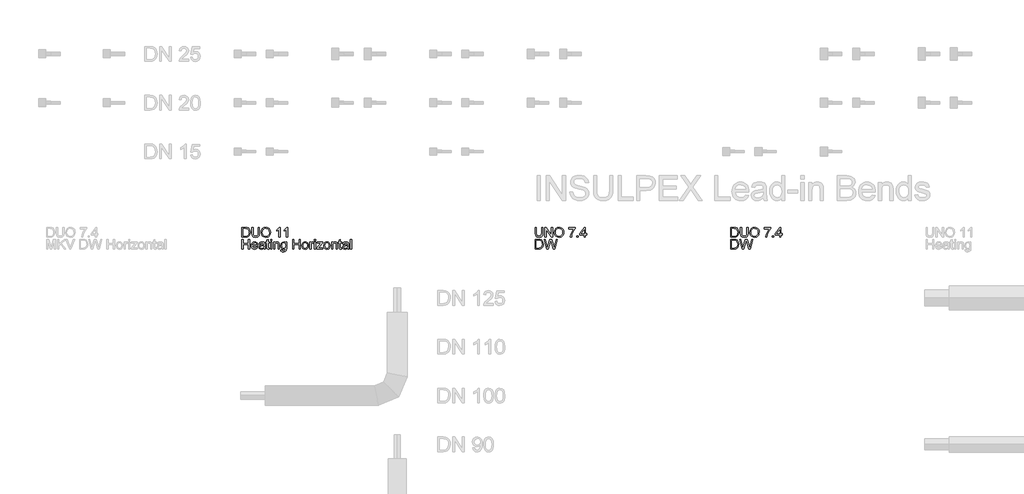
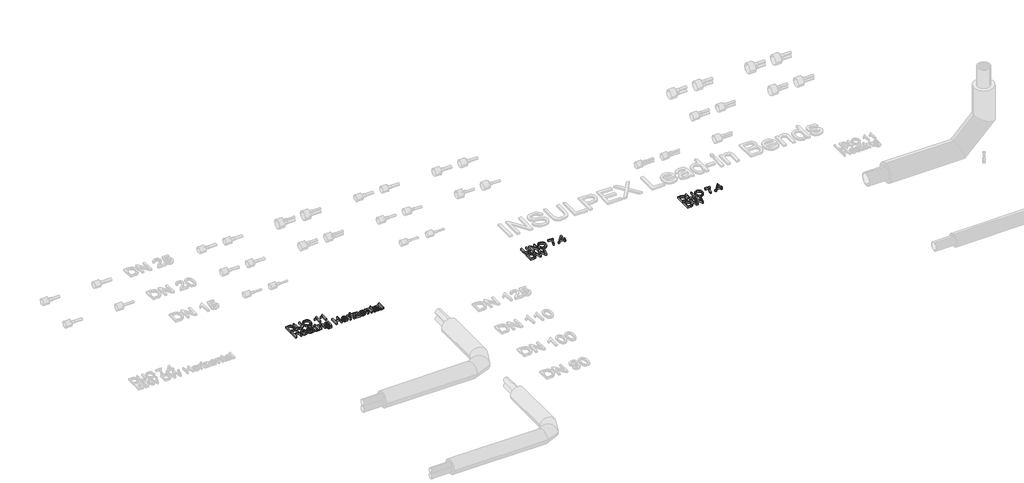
# One storey, part 20 of 44: 3 proxies.
"""IFC4 building model written with IfcOpenShell, lengths in millimetres."""

import ifcopenshell
import ifcopenshell.guid

model = None  # the IFC model being written
_history = None  # IfcOwnerHistory: only IFC2X3 demands one
_inside = {}  # id of a spatial element -> (the spatial element, [elements in it])
_under = {}  # id of a project, library or spatial element -> (it, [spatial elements below it])
_declared = {}  # id of a project -> (the project, [libraries it declares])
_typed = {}  # id of a type object -> (the type object, [elements of that type])
_made_of = {}  # id of a material, layer set ... -> (it, [elements and type objects made of it])


def new_model(schema):
    """Start an empty IFC model of exactly this schema.

    Asked for "IFC4X3", IfcOpenShell would pick the latest addendum, in which some entities
    have other attributes; the version numbers below select the first issue.
    IFC2X3 requires an IfcOwnerHistory on every rooted entity: one is made here for all.
    """
    global model, _history
    if schema == "IFC4X3":
        model = ifcopenshell.file(schema_version=(4, 3, 0, 0))
    else:
        model = ifcopenshell.file(schema=schema)
    _inside.clear()
    _under.clear()
    _declared.clear()
    _typed.clear()
    _made_of.clear()
    _history = None
    if model.schema == "IFC2X3":
        org = make("IfcOrganization", Name="unknown")
        user = make(
            "IfcPersonAndOrganization",
            ThePerson=make("IfcPerson", FamilyName="unknown"),
            TheOrganization=org,
        )
        app = make(
            "IfcApplication",
            ApplicationDeveloper=org,
            Version="unknown",
            ApplicationFullName="unknown",
            ApplicationIdentifier="unknown",
        )
        _history = make(
            "IfcOwnerHistory",
            OwningUser=user,
            OwningApplication=app,
            ChangeAction="ADDED",
            CreationDate=0,
        )
    return model


def make(cls, **values):
    """One entity of the class cls with the attributes given. An attribute that is None is left unset."""
    return model.create_entity(
        cls, **{name: value for name, value in values.items() if value is not None}
    )


def rooted(cls, **values):
    """An entity with a GlobalId (a new one), such as an element, a storey or a relation."""
    return make(cls, GlobalId=ifcopenshell.guid.new(), OwnerHistory=_history, **values)


def si_unit(unit_type, name, prefix=None):
    """IfcSIUnit, for example si_unit("LENGTHUNIT", "METRE", prefix="MILLI")."""
    return make("IfcSIUnit", UnitType=unit_type, Prefix=prefix, Name=name)


def assignment(units):
    """IfcUnitAssignment: the units of a project."""
    return None if units is None else make("IfcUnitAssignment", Units=units)


def point(xyz):
    """IfcCartesianPoint."""
    return None if xyz is None else make("IfcCartesianPoint", Coordinates=xyz)


def direction(xyz):
    """IfcDirection."""
    return None if xyz is None else make("IfcDirection", DirectionRatios=xyz)


def frame(location, z_axis=None, x_axis=None):
    """IfcAxis2Placement3D, a coordinate frame: its origin and axes. An axis left out is left unset."""
    return make(
        "IfcAxis2Placement3D",
        Location=point(location),
        Axis=direction(z_axis),
        RefDirection=direction(x_axis),
    )


def origin():
    """The frame at (0, 0, 0) with its axes left unset."""
    return frame((0.0, 0.0, 0.0))


def origin_with_axes():
    """The frame at (0, 0, 0) with the z axis (0, 0, 1) and the x axis (1, 0, 0) written out."""
    return frame((0.0, 0.0, 0.0), z_axis=(0.0, 0.0, 1.0), x_axis=(1.0, 0.0, 0.0))


def place(relative_to, where):
    """IfcLocalPlacement: puts the frame where relative to a parent placement (None: the world)."""
    return make(
        "IfcLocalPlacement", PlacementRelTo=relative_to, RelativePlacement=where
    )


def context(
    kind, dimensions, precision=None, world=None, true_north=None, identifier=None
):
    """IfcGeometricRepresentationContext, for example the 3D "Model" context."""
    return make(
        "IfcGeometricRepresentationContext",
        ContextIdentifier=identifier,
        ContextType=kind,
        CoordinateSpaceDimension=dimensions,
        Precision=precision,
        WorldCoordinateSystem=world,
        TrueNorth=true_north,
    )


def project(units=None, contexts=None):
    """IfcProject with its units and contexts."""
    return rooted(
        "IfcProject",
        Name="project",
        RepresentationContexts=contexts,
        UnitsInContext=assignment(units),
    )


def spatial(cls, under=None, at=None, **own):
    """A site, building, storey or space (cls), placed at a placement, below another one or the project."""
    s = rooted(cls, ObjectPlacement=at, **own)
    if under is not None:
        _under.setdefault(under.id(), (under, []))[1].append(s)
    return s


def polyline(points):
    """IfcPolyline through the points."""
    return make("IfcPolyline", Points=[point(p) for p in points])


def outline(outer, holes=None, kind="AREA"):
    """IfcArbitraryClosedProfileDef: a profile drawn as a closed curve; with holes, ...WithVoids."""
    if holes is None:
        return make("IfcArbitraryClosedProfileDef", ProfileType=kind, OuterCurve=outer)
    return make(
        "IfcArbitraryProfileDefWithVoids",
        ProfileType=kind,
        OuterCurve=outer,
        InnerCurves=holes,
    )


def extrude(swept, where, along, depth):
    """IfcExtrudedAreaSolid: the profile swept, set in the frame where, extruded along a direction by depth."""
    return make(
        "IfcExtrudedAreaSolid",
        SweptArea=swept,
        Position=where,
        ExtrudedDirection=direction(along),
        Depth=depth,
    )


def shape(context_of_items, identifier, shape_type, items):
    """IfcShapeRepresentation: the items that make up one representation, for example the "Body"."""
    return make(
        "IfcShapeRepresentation",
        ContextOfItems=context_of_items,
        RepresentationIdentifier=identifier,
        RepresentationType=shape_type,
        Items=items,
    )


def made_of(thing, what):
    """Note that an element or type object is made of a material, layer set ...; save() writes the relation."""
    if what is not None:
        _made_of.setdefault(what.id(), (what, []))[1].append(thing)
    return thing


def element(
    cls,
    number,
    at=None,
    inside=None,
    cuts=None,
    type_object=None,
    material=None,
    context=None,
    identifier="Body",
    shape_type=None,
    held_by="IfcProductDefinitionShape",
    body=None,
    shapes=None,
    **own,
):
    """One element of the class cls, such as IfcWall. Its Tag is "e" and its number.

    at: its placement. inside: the storey or other place that contains it. cuts: it is an
    opening in that element (IfcRelVoidsElement). A single representation is given by context,
    identifier, shape_type and body (its items); several are given by shapes. held_by: the class
    of the entity that holds the representations. save() writes the other relations.
    """
    e = rooted(cls, Tag="e%d" % number, ObjectPlacement=at, **own)
    if body is not None:
        shapes = [shape(context, identifier, shape_type, body)]
    if shapes is not None:
        e.Representation = make(held_by, Representations=shapes)
    if inside is not None:
        _inside.setdefault(inside.id(), (inside, []))[1].append(e)
    if cuts is not None:
        rooted(
            "IfcRelVoidsElement", RelatingBuildingElement=cuts, RelatedOpeningElement=e
        )
    if type_object is not None:
        _typed.setdefault(type_object.id(), (type_object, []))[1].append(e)
    return made_of(e, material)


def aggregate(whole, parts):
    """IfcRelAggregates: a whole, such as a stair, and the parts it consists of."""
    return rooted("IfcRelAggregates", RelatingObject=whole, RelatedObjects=parts)


def save(model, path):
    """Write the relations noted so far, then the file.

    IfcRelAggregates (storeys below a building ...), IfcRelContainedInSpatialStructure (elements
    in a storey), IfcRelDefinesByType, IfcRelAssociatesMaterial and IfcRelDeclares: one each for
    every whole, place, type object, material and project.
    """
    for whole, parts in _under.values():
        aggregate(whole, parts)
    for where, things in _inside.values():
        rooted(
            "IfcRelContainedInSpatialStructure",
            RelatedElements=things,
            RelatingStructure=where,
        )
    for kind, things in _typed.values():
        rooted("IfcRelDefinesByType", RelatedObjects=things, RelatingType=kind)
    for what, things in _made_of.values():
        rooted("IfcRelAssociatesMaterial", RelatedObjects=things, RelatingMaterial=what)
    for by, libraries in _declared.values():
        rooted("IfcRelDeclares", RelatingContext=by, RelatedDefinitions=libraries)
    model.write(path)


model = new_model("IFC4")

# Units and contexts
model_context = context("Model", 3, world=origin())
ifc_project = project(units=[si_unit("LENGTHUNIT", "METRE", prefix="MILLI")], contexts=[model_context])

# Site, building, storey
site = spatial("IfcSite", under=ifc_project)
building = spatial("IfcBuilding", under=site)
storey = spatial("IfcBuildingStorey", under=building, Name="REHAU Starting view", Elevation=0.0)

# Proxies
placement = place(None, origin())
element("IfcBuildingElementProxy", 1, Name="100", ObjectType="100", at=placement, inside=storey, context=model_context, shape_type="SweptSolid", body=[
    extrude(outline(polyline([(19076.9118625, 6222.431128), (19089.4689012, 6222.431128), (19089.4689012, 6164.477451), (19086.0598614, 6140.4547567), (19073.7726028, 6125.9847316), (19063.5086951, 6121.8000739), (19050.4734097, 6120.405188), (19027.529836, 6125.2612303), (19019.8901532, 6131.2055902), (19014.8011189, 6139.3265853), (19010.9874089, 6164.477451), (19010.9874089, 6222.431128), (19023.5444477, 6222.431128), (19023.5444477, 6164.9189094), (19026.0215198, 6145.7767829), (19034.5318566, 6136.2976902), (19049.2961874, 6132.9622268), (19062.067824, 6134.6115644), (19070.5597667, 6139.5595772), (19075.3238385, 6149.1980855), (19076.9118625, 6164.9189094), (19076.9118625, 6222.431128)])), origin_with_axes(), (0.0, 0.0, 1.0), 20.0),
    extrude(outline(polyline([(19111.4437191, 6121.9748178), (19111.4437191, 6222.431128), (19124.8836746, 6222.431128), (19177.3681726, 6142.8459897), (19177.3681726, 6222.431128), (19189.9252114, 6222.431128), (19189.9252114, 6121.9748178), (19176.4852558, 6121.9748178), (19124.0007578, 6201.5844816), (19124.0007578, 6121.9748178), (19111.4437191, 6121.9748178)])), origin_with_axes(), (0.0, 0.0, 1.0), 20.0),
    extrude(outline(polyline([(19207.1911397, 6170.8785977), (19210.5388658, 6193.0925389), (19220.5820443, 6209.8986147), (19235.9165921, 6220.4752221), (19255.1384264, 6224.0007578), (19268.3147332, 6222.3452889), (19280.1298766, 6217.3788819), (19289.9400631, 6209.4510249), (19297.1014993, 6198.9112058), (19301.479295, 6186.2683279), (19302.9385603, 6172.0312947), (19301.402653, 6157.6041891), (19296.794931, 6144.7835015), (19289.369846, 6134.2252883), (19279.3818499, 6126.5856055), (19267.667874, 6121.9502924), (19255.06485, 6120.405188), (19241.6862081, 6122.1127736), (19229.8036197, 6127.2355304), (19220.0179586, 6135.3105402), (19212.9300988, 6145.8748848), (19207.1911397, 6170.8785977)]), holes=[polyline([(19219.7481785, 6170.7559704), (19222.2589731, 6155.0412778), (19229.7913569, 6143.0667189), (19241.1129253, 6135.4883498), (19254.9912736, 6132.9622268), (19269.071957, 6135.5128753), (19280.4119195, 6143.1648208), (19287.889121, 6155.5072617), (19290.3815215, 6172.1293965), (19286.1140904, 6192.8534156), (19273.6428907, 6206.575414), (19255.2120028, 6211.4437191), (19241.7046022, 6209.0984714), (19230.2205526, 6202.0627282), (19222.366272, 6189.5455433), (19219.7481785, 6170.7559704)])]), origin_with_axes(), (0.0, 0.0, 1.0), 20.0),
    extrude(outline(polyline([(19354.7363452, 6208.3044594), (19354.7363452, 6220.8614981), (19420.6607988, 6220.8614981), (19420.6607988, 6210.7079551), (19401.9601307, 6183.6931539), (19387.6495211, 6149.2716619), (19382.9896824, 6121.9748178), (19370.4326437, 6121.9748178), (19375.4235761, 6150.3017315), (19389.121049, 6182.3197278), (19408.10376, 6208.3044594), (19354.7363452, 6208.3044594)])), origin_with_axes(), (0.0, 0.0, 1.0), 20.0),
    extrude(outline(polyline([(19437.9267271, 6121.9748178), (19437.9267271, 6134.5318566), (19450.4837658, 6134.5318566), (19450.4837658, 6121.9748178), (19437.9267271, 6121.9748178)])), origin_with_axes(), (0.0, 0.0, 1.0), 20.0),
    extrude(outline(polyline([(19511.6993298, 6121.9748178), (19511.6993298, 6145.5192655), (19466.1800643, 6145.5192655), (19466.1800643, 6158.0763043), (19514.8385895, 6220.8614981), (19524.2563686, 6220.8614981), (19524.2563686, 6158.0763043), (19536.8134074, 6158.0763043), (19536.8134074, 6145.5192655), (19524.2563686, 6145.5192655), (19524.2563686, 6121.9748178), (19511.6993298, 6121.9748178)]), holes=[polyline([(19511.6993298, 6158.0763043), (19511.6993298, 6196.8755921), (19481.6311081, 6158.0763043), (19511.6993298, 6158.0763043)])]), origin_with_axes(), (0.0, 0.0, 1.0), 20.0),
    extrude(outline(polyline([(19010.9874089, 6000.0), (19010.9874089, 6100.4563101), (19045.6418929, 6100.4563101), (19063.5700088, 6099.0093076), (19078.3343395, 6091.823346), (19090.2291907, 6074.6555196), (19094.1777908, 6050.7677153), (19091.5045149, 6030.4974174), (19084.6373844, 6015.8679767), (19075.4648599, 6006.756766), (19063.4596442, 6001.7167826), (19047.3096246, 6000.0), (19010.9874089, 6000.0)]), holes=[polyline([(19023.5444477, 6012.5570388), (19045.7645202, 6012.5570388), (19061.9268025, 6014.3719233), (19071.2464797, 6019.4977457), (19078.8861625, 6031.9689454), (19081.620752, 6050.9639191), (19080.2810484, 6064.6491293), (19076.2619376, 6074.7536214), (19063.2266522, 6085.8881831), (19045.4211637, 6087.8992714), (19023.5444477, 6087.8992714), (19023.5444477, 6012.5570388)])]), origin_with_axes(), (0.0, 0.0, 1.0), 20.0),
    extrude(outline(polyline([(19129.4208859, 6000.0), (19102.02594, 6100.4563101), (19114.9753862, 6100.4563101), (19130.8678884, 6034.4337547), (19135.7729817, 6014.0530922), (19141.0214315, 6032.07931), (19160.9361102, 6100.4563101), (19179.59999, 6100.4563101), (19194.0700152, 6050.8903427), (19204.8366949, 6014.0530922), (19209.5946354, 6033.8451436), (19225.6342904, 6100.4563101), (19238.5837366, 6100.4563101), (19211.1642652, 6000.0), (19197.7488351, 6000.0), (19173.6648272, 6077.5004737), (19170.3048383, 6088.3162043), (19166.5279165, 6075.2931817), (19144.5776241, 6000.0), (19129.4208859, 6000.0)])), origin_with_axes(), (0.0, 0.0, 1.0), 20.0),
])
element("IfcBuildingElementProxy", 2, Name="100", ObjectType="100", at=placement, inside=storey, context=model_context, shape_type="SweptSolid", body=[
    extrude(outline(polyline([(21010.9874089, 6121.9748178), (21010.9874089, 6222.431128), (21045.6418929, 6222.431128), (21063.5700088, 6220.9841255), (21078.3343395, 6213.7981638), (21090.2291907, 6196.6303374), (21094.1777908, 6172.7425332), (21091.5045149, 6152.4722352), (21084.6373844, 6137.8427946), (21075.4648599, 6128.7315838), (21063.4596442, 6123.6916005), (21047.3096246, 6121.9748178), (21010.9874089, 6121.9748178)]), holes=[polyline([(21023.5444477, 6134.5318566), (21045.7645202, 6134.5318566), (21061.9268025, 6136.3467411), (21071.2464797, 6141.4725636), (21078.8861625, 6153.9437632), (21081.620752, 6172.9387369), (21080.2810484, 6186.6239471), (21076.2619376, 6196.7284393), (21063.2266522, 6207.863001), (21045.4211637, 6209.8740892), (21023.5444477, 6209.8740892), (21023.5444477, 6134.5318566)])]), origin_with_axes(), (0.0, 0.0, 1.0), 20.0),
    extrude(outline(polyline([(21177.3681726, 6222.431128), (21189.9252114, 6222.431128), (21189.9252114, 6164.477451), (21186.5161716, 6140.4547567), (21174.2289129, 6125.9847316), (21163.9650053, 6121.8000739), (21150.9297199, 6120.405188), (21127.9861461, 6125.2612303), (21120.3464634, 6131.2055902), (21115.2574291, 6139.3265853), (21111.4437191, 6164.477451), (21111.4437191, 6222.431128), (21124.0007578, 6222.431128), (21124.0007578, 6164.9189094), (21126.4778299, 6145.7767829), (21134.9881668, 6136.2976902), (21149.7524975, 6132.9622268), (21162.5241341, 6134.6115644), (21171.0160768, 6139.5595772), (21175.7801487, 6149.1980855), (21177.3681726, 6164.9189094), (21177.3681726, 6222.431128)])), origin_with_axes(), (0.0, 0.0, 1.0), 20.0),
    extrude(outline(polyline([(21207.1911397, 6170.8785977), (21210.5388658, 6193.0925389), (21220.5820443, 6209.8986147), (21235.9165921, 6220.4752221), (21255.1384264, 6224.0007578), (21268.3147332, 6222.3452889), (21280.1298766, 6217.3788819), (21289.9400631, 6209.4510249), (21297.1014993, 6198.9112058), (21301.479295, 6186.2683279), (21302.9385603, 6172.0312947), (21301.402653, 6157.6041891), (21296.794931, 6144.7835015), (21289.369846, 6134.2252883), (21279.3818499, 6126.5856055), (21267.667874, 6121.9502924), (21255.06485, 6120.405188), (21241.6862081, 6122.1127736), (21229.8036197, 6127.2355304), (21220.0179586, 6135.3105402), (21212.9300988, 6145.8748848), (21207.1911397, 6170.8785977)]), holes=[polyline([(21219.7481785, 6170.7559704), (21222.2589731, 6155.0412778), (21229.7913569, 6143.0667189), (21241.1129253, 6135.4883498), (21254.9912736, 6132.9622268), (21269.071957, 6135.5128753), (21280.4119195, 6143.1648208), (21287.889121, 6155.5072617), (21290.3815215, 6172.1293965), (21286.1140904, 6192.8534156), (21273.6428907, 6206.575414), (21255.2120028, 6211.4437191), (21241.7046022, 6209.0984714), (21230.2205526, 6202.0627282), (21222.366272, 6189.5455433), (21219.7481785, 6170.7559704)])]), origin_with_axes(), (0.0, 0.0, 1.0), 20.0),
    extrude(outline(polyline([(21354.7363452, 6208.3044594), (21354.7363452, 6220.8614981), (21420.6607988, 6220.8614981), (21420.6607988, 6210.7079551), (21401.9601307, 6183.6931539), (21387.6495211, 6149.2716619), (21382.9896824, 6121.9748178), (21370.4326437, 6121.9748178), (21375.4235761, 6150.3017315), (21389.121049, 6182.3197278), (21408.10376, 6208.3044594), (21354.7363452, 6208.3044594)])), origin_with_axes(), (0.0, 0.0, 1.0), 20.0),
    extrude(outline(polyline([(21437.9267271, 6121.9748178), (21437.9267271, 6134.5318566), (21450.4837658, 6134.5318566), (21450.4837658, 6121.9748178), (21437.9267271, 6121.9748178)])), origin_with_axes(), (0.0, 0.0, 1.0), 20.0),
    extrude(outline(polyline([(21511.6993298, 6121.9748178), (21511.6993298, 6145.5192655), (21466.1800643, 6145.5192655), (21466.1800643, 6158.0763043), (21514.8385895, 6220.8614981), (21524.2563686, 6220.8614981), (21524.2563686, 6158.0763043), (21536.8134074, 6158.0763043), (21536.8134074, 6145.5192655), (21524.2563686, 6145.5192655), (21524.2563686, 6121.9748178), (21511.6993298, 6121.9748178)]), holes=[polyline([(21511.6993298, 6158.0763043), (21511.6993298, 6196.8755921), (21481.6311081, 6158.0763043), (21511.6993298, 6158.0763043)])]), origin_with_axes(), (0.0, 0.0, 1.0), 20.0),
    extrude(outline(polyline([(21010.9874089, 6000.0), (21010.9874089, 6100.4563101), (21045.6418929, 6100.4563101), (21063.5700088, 6099.0093076), (21078.3343395, 6091.823346), (21090.2291907, 6074.6555196), (21094.1777908, 6050.7677153), (21091.5045149, 6030.4974174), (21084.6373844, 6015.8679767), (21075.4648599, 6006.756766), (21063.4596442, 6001.7167826), (21047.3096246, 6000.0), (21010.9874089, 6000.0)]), holes=[polyline([(21023.5444477, 6012.5570388), (21045.7645202, 6012.5570388), (21061.9268025, 6014.3719233), (21071.2464797, 6019.4977457), (21078.8861625, 6031.9689454), (21081.620752, 6050.9639191), (21080.2810484, 6064.6491293), (21076.2619376, 6074.7536214), (21063.2266522, 6085.8881831), (21045.4211637, 6087.8992714), (21023.5444477, 6087.8992714), (21023.5444477, 6012.5570388)])]), origin_with_axes(), (0.0, 0.0, 1.0), 20.0),
    extrude(outline(polyline([(21129.4208859, 6000.0), (21102.02594, 6100.4563101), (21114.9753862, 6100.4563101), (21130.8678884, 6034.4337547), (21135.7729817, 6014.0530922), (21141.0214315, 6032.07931), (21160.9361102, 6100.4563101), (21179.59999, 6100.4563101), (21194.0700152, 6050.8903427), (21204.8366949, 6014.0530922), (21209.5946354, 6033.8451436), (21225.6342904, 6100.4563101), (21238.5837366, 6100.4563101), (21211.1642652, 6000.0), (21197.7488351, 6000.0), (21173.6648272, 6077.5004737), (21170.3048383, 6088.3162043), (21166.5279165, 6075.2931817), (21144.5776241, 6000.0), (21129.4208859, 6000.0)])), origin_with_axes(), (0.0, 0.0, 1.0), 20.0),
])
element("IfcBuildingElementProxy", 3, Name="100", ObjectType="100", at=placement, inside=storey, context=model_context, shape_type="SweptSolid", body=[
    extrude(outline(polyline([(16010.9874089, 6121.9748178), (16010.9874089, 6222.431128), (16045.6418929, 6222.431128), (16063.5700088, 6220.9841255), (16078.3343395, 6213.7981638), (16090.2291907, 6196.6303374), (16094.1777908, 6172.7425332), (16091.5045149, 6152.4722352), (16084.6373844, 6137.8427946), (16075.4648599, 6128.7315838), (16063.4596442, 6123.6916005), (16047.3096246, 6121.9748178), (16010.9874089, 6121.9748178)]), holes=[polyline([(16023.5444477, 6134.5318566), (16045.7645202, 6134.5318566), (16061.9268025, 6136.3467411), (16071.2464797, 6141.4725636), (16078.8861625, 6153.9437632), (16081.620752, 6172.9387369), (16080.2810484, 6186.6239471), (16076.2619376, 6196.7284393), (16063.2266522, 6207.863001), (16045.4211637, 6209.8740892), (16023.5444477, 6209.8740892), (16023.5444477, 6134.5318566)])]), origin_with_axes(), (0.0, 0.0, 1.0), 20.0),
    extrude(outline(polyline([(16177.3681726, 6222.431128), (16189.9252114, 6222.431128), (16189.9252114, 6164.477451), (16186.5161716, 6140.4547567), (16174.2289129, 6125.9847316), (16163.9650053, 6121.8000739), (16150.9297199, 6120.405188), (16127.9861461, 6125.2612303), (16120.3464634, 6131.2055902), (16115.2574291, 6139.3265853), (16111.4437191, 6164.477451), (16111.4437191, 6222.431128), (16124.0007578, 6222.431128), (16124.0007578, 6164.9189094), (16126.4778299, 6145.7767829), (16134.9881668, 6136.2976902), (16149.7524975, 6132.9622268), (16162.5241341, 6134.6115644), (16171.0160768, 6139.5595772), (16175.7801487, 6149.1980855), (16177.3681726, 6164.9189094), (16177.3681726, 6222.431128)])), origin_with_axes(), (0.0, 0.0, 1.0), 20.0),
    extrude(outline(polyline([(16207.1911397, 6170.8785977), (16210.5388658, 6193.0925389), (16220.5820443, 6209.8986147), (16235.9165921, 6220.4752221), (16255.1384264, 6224.0007578), (16268.3147332, 6222.3452889), (16280.1298766, 6217.3788819), (16289.9400631, 6209.4510249), (16297.1014993, 6198.9112058), (16301.479295, 6186.2683279), (16302.9385603, 6172.0312947), (16301.402653, 6157.6041891), (16296.794931, 6144.7835015), (16289.369846, 6134.2252883), (16279.3818499, 6126.5856055), (16267.667874, 6121.9502924), (16255.06485, 6120.405188), (16241.6862081, 6122.1127736), (16229.8036197, 6127.2355304), (16220.0179586, 6135.3105402), (16212.9300988, 6145.8748848), (16207.1911397, 6170.8785977)]), holes=[polyline([(16219.7481785, 6170.7559704), (16222.2589731, 6155.0412778), (16229.7913569, 6143.0667189), (16241.1129253, 6135.4883498), (16254.9912736, 6132.9622268), (16269.071957, 6135.5128753), (16280.4119195, 6143.1648208), (16287.889121, 6155.5072617), (16290.3815215, 6172.1293965), (16286.1140904, 6192.8534156), (16273.6428907, 6206.575414), (16255.2120028, 6211.4437191), (16241.7046022, 6209.0984714), (16230.2205526, 6202.0627282), (16222.366272, 6189.5455433), (16219.7481785, 6170.7559704)])]), origin_with_axes(), (0.0, 0.0, 1.0), 20.0),
    extrude(outline(polyline([(16401.8252406, 6121.9748178), (16389.2682018, 6121.9748178), (16389.2682018, 6200.2601064), (16377.3733507, 6191.7865578), (16364.1541243, 6185.4467247), (16364.1541243, 6197.3170505), (16382.5604868, 6209.0647488), (16393.7318367, 6222.431128), (16401.8252406, 6222.431128), (16401.8252406, 6121.9748178)])), origin_with_axes(), (0.0, 0.0, 1.0), 20.0),
    extrude(outline(polyline([(16478.7371031, 6121.9748178), (16466.1800643, 6121.9748178), (16466.1800643, 6200.2601064), (16454.2852131, 6191.7865578), (16441.0659868, 6185.4467247), (16441.0659868, 6197.3170505), (16459.4723492, 6209.0647488), (16470.6436992, 6222.431128), (16478.7371031, 6222.431128), (16478.7371031, 6121.9748178)])), origin_with_axes(), (0.0, 0.0, 1.0), 20.0),
    extrude(outline(polyline([(16010.9874089, 6000.0), (16010.9874089, 6100.4563101), (16023.5444477, 6100.4563101), (16023.5444477, 6059.6459342), (16076.9118625, 6059.6459342), (16076.9118625, 6100.4563101), (16089.4689012, 6100.4563101), (16089.4689012, 6000.0), (16076.9118625, 6000.0), (16076.9118625, 6047.0888954), (16023.5444477, 6047.0888954), (16023.5444477, 6000.0), (16010.9874089, 6000.0)])), origin_with_axes(), (0.0, 0.0, 1.0), 20.0),
    extrude(outline(polyline([(16161.5247213, 6021.9748178), (16173.8365055, 6020.405188), (16169.4004617, 6011.1284304), (16162.321799, 6004.1938547), (16152.7599328, 5999.8712413), (16140.8742787, 5998.4303702), (16126.1406048, 6000.9166393), (16114.803708, 6008.3754468), (16107.5748268, 6020.3224146), (16105.1651997, 6036.2731647), (16107.5993522, 6052.7604095), (16114.9018098, 6065.0905877), (16126.0854225, 6072.7793214), (16140.1630402, 6075.3422326), (16153.8022651, 6072.7854527), (16164.7007692, 6065.1151131), (16171.846877, 6052.8094604), (16174.2289129, 6036.3467411), (16174.1553365, 6032.9622268), (16117.7222385, 6032.9622268), (16119.8958079, 6023.5628418), (16124.9449883, 6016.6527916), (16132.2321175, 6012.4037546), (16141.1195333, 6010.9874089), (16153.4313175, 6013.6116338), (16161.5247213, 6021.9748178)]), holes=[polyline([(16117.7222385, 6045.5192655), (16161.6718741, 6045.5192655), (16156.6441535, 6056.8990819), (16149.3233018, 6061.3136659), (16140.1139892, 6062.7851938), (16124.6506827, 6058.088567), (16119.7854433, 6052.5979283), (16117.7222385, 6045.5192655)])]), origin_with_axes(), (0.0, 0.0, 1.0), 20.0),
    extrude(outline(polyline([(16233.8748471, 6009.4177791), (16221.697953, 6000.9074423), (16208.2457347, 5998.4303702), (16197.7519008, 5999.9202922), (16190.0110505, 6004.3900585), (16185.2377816, 6011.1774813), (16183.646692, 6019.6203731), (16186.0501877, 6029.5531869), (16192.3654953, 6036.7636741), (16201.157875, 6040.8839524), (16212.0226566, 6042.7724133), (16233.8012707, 6047.0888954), (16233.8748471, 6049.8847985), (16230.4167563, 6059.1554248), (16216.5353424, 6062.7851938), (16203.8311508, 6060.3694354), (16197.7733606, 6051.7977849), (16185.2163218, 6053.3674148), (16190.6487126, 6065.6301479), (16201.5870706, 6072.8161096), (16218.1540231, 6075.3422326), (16233.372075, 6073.1104152), (16241.968251, 6067.5063461), (16245.8187492, 6058.9837466), (16246.4318858, 6047.9963376), (16246.4318858, 6032.3736156), (16247.069548, 6010.5582133), (16249.5711455, 6000.0), (16237.0141068, 6000.0), (16233.8748471, 6009.4177791)]), holes=[polyline([(16233.8748471, 6034.5318566), (16213.6168119, 6030.6813584), (16202.8133439, 6028.6457447), (16197.9205134, 6025.3348067), (16196.2037308, 6020.5032899), (16199.9438644, 6013.7097357), (16210.9190106, 6010.9874089), (16223.6232021, 6013.9917785), (16231.8147079, 6021.2635793), (16233.8012707, 6030.975664), (16233.8748471, 6034.5318566)])]), origin_with_axes(), (0.0, 0.0, 1.0), 20.0),
    extrude(outline(polyline([(16290.3815215, 6010.4723741), (16291.9511514, 5999.632118), (16282.5578978, 5998.4303702), (16272.0364727, 6000.5150348), (16266.7880229, 6005.9842138), (16265.267444, 6020.2335097), (16265.267444, 6061.215564), (16255.8496649, 6061.215564), (16255.8496649, 6073.7726028), (16265.267444, 6073.7726028), (16265.267444, 6091.7007187), (16277.8244828, 6099.082884), (16277.8244828, 6073.7726028), (16290.3815215, 6073.7726028), (16290.3815215, 6061.215564), (16277.8244828, 6061.215564), (16277.8244828, 6020.6013917), (16278.4866703, 6014.1266686), (16280.6326487, 6011.8335375), (16284.9123425, 6010.9874089), (16290.3815215, 6010.4723741)])), origin_with_axes(), (0.0, 0.0, 1.0), 20.0),
    extrude(outline(polyline([(16302.9385603, 6087.8992714), (16302.9385603, 6100.4563101), (16315.4955991, 6100.4563101), (16315.4955991, 6087.8992714), (16302.9385603, 6087.8992714)])), origin_with_axes(), (0.0, 0.0, 1.0), 20.0),
    extrude(outline(polyline([(16302.9385603, 6000.0), (16302.9385603, 6073.7726028), (16315.4955991, 6073.7726028), (16315.4955991, 6000.0), (16302.9385603, 6000.0)])), origin_with_axes(), (0.0, 0.0, 1.0), 20.0),
    extrude(outline(polyline([(16334.3311572, 6000.0), (16334.3311572, 6073.7726028), (16346.888196, 6073.7726028), (16346.888196, 6063.4719069), (16356.4899161, 6072.3746512), (16369.5987778, 6075.3422326), (16381.4568408, 6072.9509996), (16389.5502447, 6066.6724803), (16393.3149038, 6057.4386422), (16393.9770914, 6045.2985363), (16393.9770914, 6000.0), (16381.4200526, 6000.0), (16381.4200526, 6043.6062792), (16379.9730501, 6054.7163154), (16374.8594904, 6060.5901646), (16366.2387889, 6062.7851938), (16352.6148924, 6057.8555751), (16348.3198701, 6050.712533), (16346.888196, 6039.1426443), (16346.888196, 6000.0), (16334.3311572, 6000.0)])), origin_with_axes(), (0.0, 0.0, 1.0), 20.0),
    extrude(outline(polyline([(16408.10376, 5993.7214806), (16420.6607988, 5992.1518508), (16424.7320262, 5985.5299749), (16436.9211829, 5982.7340717), (16449.7725273, 5985.8978569), (16455.9038939, 5994.7760757), (16456.7622852, 6009.4177791), (16447.9208546, 6002.3544448), (16437.1419121, 6000.0), (16424.1955316, 6002.7407209), (16414.5416949, 6010.9628835), (16408.5360213, 6023.0171502), (16406.5341301, 6037.2541834), (16410.127111, 6056.7151409), (16420.5259087, 6070.4861903), (16436.5287755, 6075.3422326), (16447.7307822, 6072.5953804), (16456.7622852, 6064.3548237), (16456.7622852, 6073.7726028), (16469.319324, 6073.7726028), (16469.319324, 6010.0799667), (16465.8857587, 5985.6893904), (16455.0087144, 5974.3463622), (16436.6759283, 5970.1770329), (16424.9926092, 5971.6454952), (16415.7924937, 5976.0508821), (16409.8910533, 5983.4054563), (16408.10376, 5993.7214806)]), holes=[polyline([(16419.0911689, 6038.1125747), (16420.4308725, 6026.5948026), (16424.4499833, 6018.6761426), (16430.4924451, 6014.0868147), (16437.9022016, 6012.5570388), (16445.2567758, 6014.0776177), (16451.3298944, 6018.6393544), (16455.4041875, 6026.4568468), (16456.7622852, 6037.7446927), (16455.3643336, 6048.6309341), (16451.1704789, 6056.4698863), (16445.0084555, 6061.2063669), (16437.7059979, 6062.7851938), (16430.5353646, 6061.2308924), (16424.5235597, 6056.5679881), (16420.4492666, 6048.8455319), (16419.0911689, 6038.1125747)])]), origin_with_axes(), (0.0, 0.0, 1.0), 20.0),
    extrude(outline(polyline([(16528.9652581, 6000.0), (16528.9652581, 6100.4563101), (16541.5222969, 6100.4563101), (16541.5222969, 6059.6459342), (16594.8897117, 6059.6459342), (16594.8897117, 6100.4563101), (16607.4467504, 6100.4563101), (16607.4467504, 6000.0), (16594.8897117, 6000.0), (16594.8897117, 6047.0888954), (16541.5222969, 6047.0888954), (16541.5222969, 6000.0), (16528.9652581, 6000.0)])), origin_with_axes(), (0.0, 0.0, 1.0), 20.0),
    extrude(outline(polyline([(16624.7126787, 6036.8863014), (16627.4288741, 6054.6733958), (16635.5774603, 6067.1752523), (16645.6451643, 6073.3004875), (16657.699431, 6075.3422326), (16670.8910662, 6072.8559635), (16681.4278197, 6065.397156), (16688.3348041, 6053.5544214), (16690.6371323, 6037.916371), (16686.5659049, 6015.5736711), (16674.7078419, 6002.9307932), (16657.699431, 5998.4303702), (16644.3483802, 6000.9074423), (16633.8238895, 6008.3386586), (16626.9904814, 6020.4297135), (16624.7126787, 6036.8863014)]), holes=[polyline([(16637.2697175, 6036.9108268), (16638.7228514, 6025.5463389), (16643.082253, 6017.4498693), (16649.6428153, 6012.603024), (16657.699431, 6010.9874089), (16665.7192585, 6012.6122211), (16672.267558, 6017.4866575), (16676.6269596, 6025.690426), (16678.0800935, 6037.3032343), (16676.6177626, 6048.3366285), (16672.2307698, 6056.3227335), (16665.6732732, 6061.1695787), (16657.699431, 6062.7851938), (16649.6428153, 6061.1757101), (16643.082253, 6056.3472589), (16638.7228514, 6048.2691835), (16637.2697175, 6036.9108268)])]), origin_with_axes(), (0.0, 0.0, 1.0), 20.0),
    extrude(outline(polyline([(16704.7638009, 6000.0), (16704.7638009, 6073.7726028), (16715.7512098, 6073.7726028), (16715.7512098, 6062.8587702), (16723.5503081, 6072.9142114), (16731.3984573, 6075.3422326), (16744.004547, 6071.4672089), (16739.8106923, 6060.2100199), (16730.9815244, 6062.7851938), (16723.8814019, 6060.3081217), (16719.3564534, 6053.4409912), (16717.3208397, 6038.7747623), (16717.3208397, 6000.0), (16704.7638009, 6000.0)])), origin_with_axes(), (0.0, 0.0, 1.0), 20.0),
    extrude(outline(polyline([(16751.8526963, 6087.8992714), (16751.8526963, 6100.4563101), (16764.409735, 6100.4563101), (16764.409735, 6087.8992714), (16751.8526963, 6087.8992714)])), origin_with_axes(), (0.0, 0.0, 1.0), 20.0),
    extrude(outline(polyline([(16751.8526963, 6000.0), (16751.8526963, 6073.7726028), (16764.409735, 6073.7726028), (16764.409735, 6000.0), (16751.8526963, 6000.0)])), origin_with_axes(), (0.0, 0.0, 1.0), 20.0),
    extrude(outline(polyline([(16775.397144, 6000.0), (16775.397144, 6011.8212748), (16818.733643, 6061.215564), (16805.9068241, 6061.215564), (16778.5364037, 6061.215564), (16778.5364037, 6073.7726028), (16836.612708, 6073.7726028), (16836.612708, 6063.1040249), (16798.1813022, 6019.2770165), (16792.2951903, 6012.5570388), (16806.8142664, 6012.5570388), (16838.1823378, 6012.5570388), (16838.1823378, 6000.0), (16775.397144, 6000.0)])), origin_with_axes(), (0.0, 0.0, 1.0), 20.0),
    extrude(outline(polyline([(16847.6001169, 6036.8863014), (16850.3163123, 6054.6733958), (16858.4648985, 6067.1752523), (16868.5326024, 6073.3004875), (16880.5868691, 6075.3422326), (16893.7785043, 6072.8559635), (16904.3152578, 6065.397156), (16911.2222423, 6053.5544214), (16913.5245704, 6037.916371), (16909.453343, 6015.5736711), (16897.59528, 6002.9307932), (16880.5868691, 5998.4303702), (16867.2358184, 6000.9074423), (16856.7113276, 6008.3386586), (16849.8779196, 6020.4297135), (16847.6001169, 6036.8863014)]), holes=[polyline([(16860.1571557, 6036.9108268), (16861.6102895, 6025.5463389), (16865.9696912, 6017.4498693), (16872.5302534, 6012.603024), (16880.5868691, 6010.9874089), (16888.6066966, 6012.6122211), (16895.1549961, 6017.4866575), (16899.5143978, 6025.690426), (16900.9675317, 6037.3032343), (16899.5052007, 6048.3366285), (16895.1182079, 6056.3227335), (16888.5607114, 6061.1695787), (16880.5868691, 6062.7851938), (16872.5302534, 6061.1757101), (16865.9696912, 6056.3472589), (16861.6102895, 6048.2691835), (16860.1571557, 6036.9108268)])]), origin_with_axes(), (0.0, 0.0, 1.0), 20.0),
    extrude(outline(polyline([(16927.651239, 6000.0), (16927.651239, 6073.7726028), (16940.2082778, 6073.7726028), (16940.2082778, 6063.4719069), (16949.8099979, 6072.3746512), (16962.9188596, 6075.3422326), (16974.7769226, 6072.9509996), (16982.8703265, 6066.6724803), (16986.6349856, 6057.4386422), (16987.2971732, 6045.2985363), (16987.2971732, 6000.0), (16974.7401344, 6000.0), (16974.7401344, 6043.6062792), (16973.2931319, 6054.7163154), (16968.1795722, 6060.5901646), (16959.5588708, 6062.7851938), (16945.9349742, 6057.8555751), (16941.6399519, 6050.712533), (16940.2082778, 6039.1426443), (16940.2082778, 6000.0), (16927.651239, 6000.0)])), origin_with_axes(), (0.0, 0.0, 1.0), 20.0),
    extrude(outline(polyline([(17031.2468089, 6010.4723741), (17032.8164387, 5999.632118), (17023.4231851, 5998.4303702), (17012.9017601, 6000.5150348), (17007.6533103, 6005.9842138), (17006.1327313, 6020.2335097), (17006.1327313, 6061.215564), (16996.7149523, 6061.215564), (16996.7149523, 6073.7726028), (17006.1327313, 6073.7726028), (17006.1327313, 6091.7007187), (17018.6897701, 6099.082884), (17018.6897701, 6073.7726028), (17031.2468089, 6073.7726028), (17031.2468089, 6061.215564), (17018.6897701, 6061.215564), (17018.6897701, 6020.6013917), (17019.3519577, 6014.1266686), (17021.497936, 6011.8335375), (17025.7776299, 6010.9874089), (17031.2468089, 6010.4723741)])), origin_with_axes(), (0.0, 0.0, 1.0), 20.0),
    extrude(outline(polyline([(17090.892743, 6009.4177791), (17078.715849, 6000.9074423), (17065.2636307, 5998.4303702), (17054.7697968, 5999.9202922), (17047.0289465, 6004.3900585), (17042.2556776, 6011.1774813), (17040.664588, 6019.6203731), (17043.0680837, 6029.5531869), (17049.3833912, 6036.7636741), (17058.1757709, 6040.8839524), (17069.0405525, 6042.7724133), (17090.8191666, 6047.0888954), (17090.892743, 6049.8847985), (17087.4346523, 6059.1554248), (17073.5532383, 6062.7851938), (17060.8490468, 6060.3694354), (17054.7912566, 6051.7977849), (17042.2342178, 6053.3674148), (17047.6666086, 6065.6301479), (17058.6049666, 6072.8161096), (17075.1719191, 6075.3422326), (17090.389971, 6073.1104152), (17098.9861469, 6067.5063461), (17102.8366451, 6058.9837466), (17103.4497818, 6047.9963376), (17103.4497818, 6032.3736156), (17104.0874439, 6010.5582133), (17106.5890415, 6000.0), (17094.0320027, 6000.0), (17090.892743, 6009.4177791)]), holes=[polyline([(17090.892743, 6034.5318566), (17070.6347078, 6030.6813584), (17059.8312399, 6028.6457447), (17054.9384094, 6025.3348067), (17053.2216267, 6020.5032899), (17056.9617603, 6013.7097357), (17067.9369065, 6010.9874089), (17080.6410981, 6013.9917785), (17088.8326039, 6021.2635793), (17090.8191666, 6030.975664), (17090.892743, 6034.5318566)])]), origin_with_axes(), (0.0, 0.0, 1.0), 20.0),
    extrude(outline(polyline([(17120.7157101, 6000.0), (17120.7157101, 6100.4563101), (17133.2727489, 6100.4563101), (17133.2727489, 6000.0), (17120.7157101, 6000.0)])), origin_with_axes(), (0.0, 0.0, 1.0), 20.0),
])

save(model, "model.ifc")
